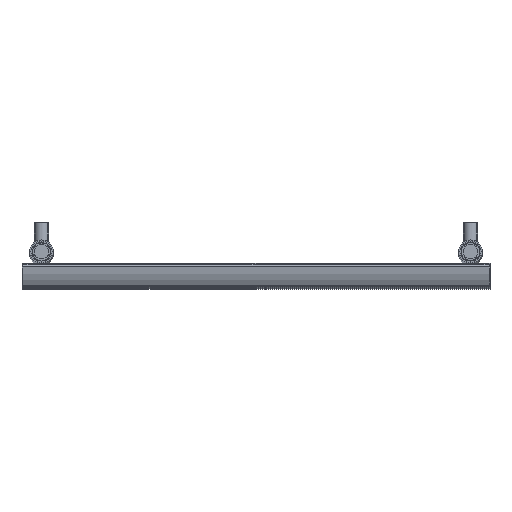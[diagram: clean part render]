
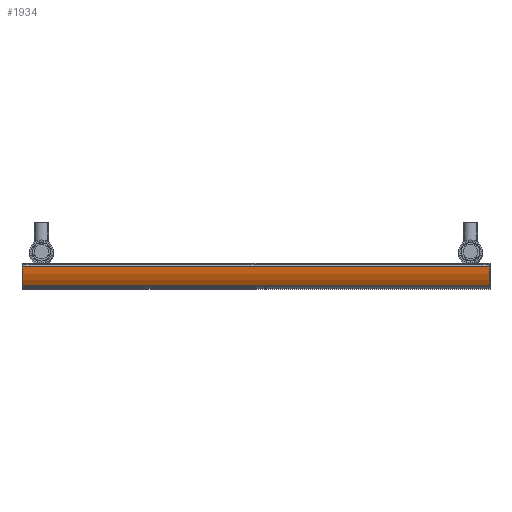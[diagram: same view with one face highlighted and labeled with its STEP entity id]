
A CAD part, top view. The second image highlights one B-rep face of the part: STEP entity #1934.
In plain terms, the highlighted cylindrical face has radius 51.638 mm (diameter 103.277 mm), a partial arc.
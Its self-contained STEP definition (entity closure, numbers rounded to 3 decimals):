
#227=LINE('',#6036,#261);
#228=LINE('',#6039,#262);
#261=VECTOR('',#2355,10.);
#262=VECTOR('',#2358,10.);
#673=FACE_OUTER_BOUND('',#900,.T.);
#900=EDGE_LOOP('',(#1691,#1692,#1693,#1694));
#950=CIRCLE('',#2081,51.638);
#951=CIRCLE('',#2082,51.638);
#1130=VERTEX_POINT('',#6032);
#1131=VERTEX_POINT('',#6033);
#1132=VERTEX_POINT('',#6035);
#1133=VERTEX_POINT('',#6037);
#1326=EDGE_CURVE('',#1130,#1131,#950,.T.);
#1327=EDGE_CURVE('',#1130,#1132,#227,.T.);
#1328=EDGE_CURVE('',#1133,#1132,#951,.T.);
#1329=EDGE_CURVE('',#1131,#1133,#228,.T.);
#1691=ORIENTED_EDGE('',*,*,#1326,.F.);
#1692=ORIENTED_EDGE('',*,*,#1327,.T.);
#1693=ORIENTED_EDGE('',*,*,#1328,.F.);
#1694=ORIENTED_EDGE('',*,*,#1329,.F.);
#1866=CYLINDRICAL_SURFACE('',#2080,51.638);
#1934=ADVANCED_FACE('',(#673),#1866,.T.);
#2080=AXIS2_PLACEMENT_3D('',#6031,#2351,#2352);
#2081=AXIS2_PLACEMENT_3D('',#6034,#2353,#2354);
#2082=AXIS2_PLACEMENT_3D('',#6038,#2356,#2357);
#2351=DIRECTION('center_axis',(0.,0.,-1.));
#2352=DIRECTION('ref_axis',(0.837,-0.547,0.));
#2353=DIRECTION('center_axis',(0.,0.,1.));
#2354=DIRECTION('ref_axis',(0.837,-0.547,0.));
#2355=DIRECTION('',(0.,0.,-1.));
#2356=DIRECTION('center_axis',(0.,0.,-1.));
#2357=DIRECTION('ref_axis',(0.837,-0.547,0.));
#2358=DIRECTION('',(0.,0.,-1.));
#6031=CARTESIAN_POINT('Origin',(-41.424,-0.617,0.));
#6032=CARTESIAN_POINT('',(1.804,-28.863,0.));
#6033=CARTESIAN_POINT('',(10.063,-4.573,0.));
#6034=CARTESIAN_POINT('Origin',(-41.424,-0.617,0.));
#6035=CARTESIAN_POINT('',(1.804,-28.863,-600.));
#6036=CARTESIAN_POINT('',(1.804,-28.863,0.));
#6037=CARTESIAN_POINT('',(10.063,-4.573,-600.));
#6038=CARTESIAN_POINT('Origin',(-41.424,-0.617,-600.));
#6039=CARTESIAN_POINT('',(10.063,-4.573,0.));
